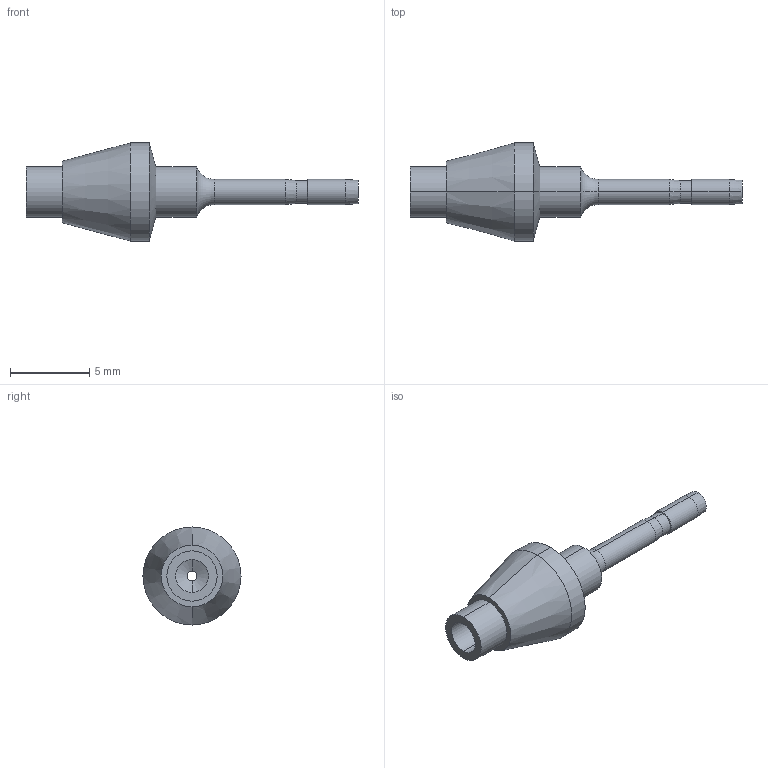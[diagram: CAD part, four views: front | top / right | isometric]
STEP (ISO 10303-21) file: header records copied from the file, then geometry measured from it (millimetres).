
FILE_DESCRIPTION (( 'STEP AP203' ), '1' );
FILE_NAME ('DPC02-01 SS.STEP', '2009-09-08T08:33:18', ( ' ' ), ( '' ), 'SwSTEP 2.0', 'SolidWorks 2008', '' );
FILE_SCHEMA (( 'CONFIG_CONTROL_DESIGN' ));
Length unit declared in the file: millimetre
Products named in the file (1): DPC02-01 SS
Bounding box: 21 x 6.2 x 6.2 mm (x, y, z)
Volume: 156.8 mm3; surface area: 314.6 mm2
Topology: 1 solids, 1 shells, 33 faces, 66 edges, 36 vertices
Faces by surface type: cylinder 16, cone 12, plane 3, torus 2
Entity records: 927 total; most frequent: DIRECTION 172, CARTESIAN_POINT 136, ORIENTED_EDGE 132, AXIS2_PLACEMENT_3D 72, EDGE_CURVE 66, CIRCLE 38, VERTEX_POINT 36, EDGE_LOOP 36
